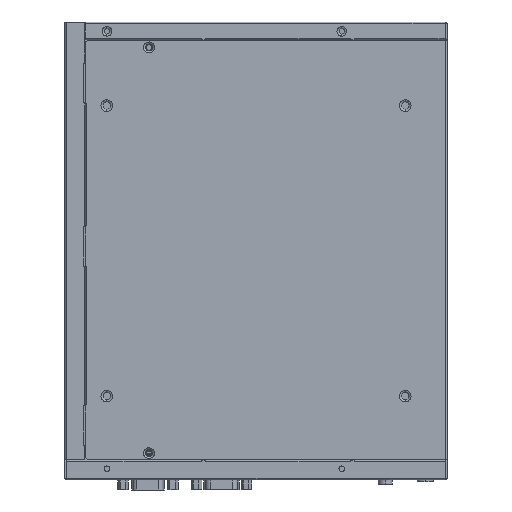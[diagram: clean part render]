
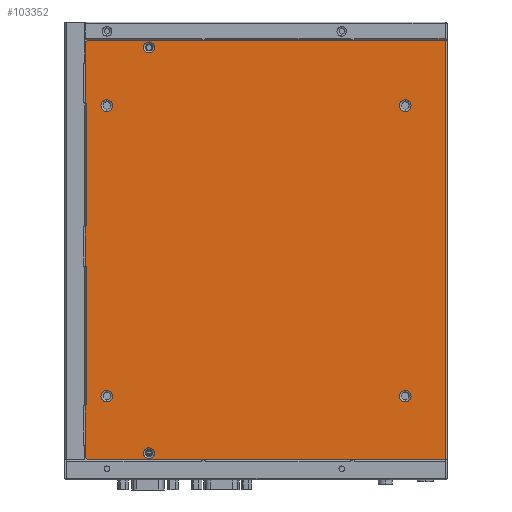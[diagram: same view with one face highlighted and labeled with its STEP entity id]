
A CAD part, front view. The second image highlights one B-rep face of the part: STEP entity #103352.
In plain terms, the highlighted planar face has unit normal (0, -1, 0).
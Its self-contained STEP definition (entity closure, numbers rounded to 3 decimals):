
#98539=CARTESIAN_POINT('',(-179.8,0.,12.));
#98540=DIRECTION('',(0.,-1.,0.));
#98541=DIRECTION('',(-1.,0.,0.));
#98542=AXIS2_PLACEMENT_3D('',#98539,#98540,#98541);
#98547=DIRECTION('',(0.,0.,-1.));
#98548=VECTOR('',#98547,25.6);
#98549=CARTESIAN_POINT('',(-181.8,0.,37.6));
#98550=LINE('',#98549,#98548);
#98554=DIRECTION('',(-1.,0.,0.));
#98555=VECTOR('',#98554,0.8);
#98556=CARTESIAN_POINT('',(-181.,0.,37.6));
#98557=LINE('',#98556,#98555);
#98561=DIRECTION('',(1.,0.,0.));
#98562=VECTOR('',#98561,0.8);
#98563=CARTESIAN_POINT('',(-181.8,0.,107.));
#98564=LINE('',#98563,#98562);
#98568=DIRECTION('',(0.,0.,-1.));
#98569=VECTOR('',#98568,20.6);
#98570=CARTESIAN_POINT('',(-181.8,0.,127.6));
#98571=LINE('',#98570,#98569);
#98575=DIRECTION('',(-1.,0.,0.));
#98576=VECTOR('',#98575,0.8);
#98577=CARTESIAN_POINT('',(-181.,0.,127.6));
#98578=LINE('',#98577,#98576);
#98582=DIRECTION('',(1.,0.,0.));
#98583=VECTOR('',#98582,0.8);
#98584=CARTESIAN_POINT('',(-181.8,0.,189.));
#98585=LINE('',#98584,#98583);
#98589=DIRECTION('',(0.,0.,-1.));
#98590=VECTOR('',#98589,29.8);
#98591=CARTESIAN_POINT('',(-181.8,0.,218.8));
#98592=LINE('',#98591,#98590);
#98596=CARTESIAN_POINT('',(-179.8,0.,218.8));
#98597=DIRECTION('',(0.,-1.,0.));
#98598=DIRECTION('',(0.,0.,1.));
#98599=AXIS2_PLACEMENT_3D('',#98596,#98597,#98598);
#98604=DIRECTION('',(1.,0.,0.));
#98605=VECTOR('',#98604,179.);
#98606=CARTESIAN_POINT('',(-179.8,0.,10.));
#98607=LINE('',#98606,#98605);
#98611=CARTESIAN_POINT('',(-149.8,0.,13.3));
#98612=DIRECTION('',(0.,1.,0.));
#98613=DIRECTION('',(0.,0.,1.));
#98614=AXIS2_PLACEMENT_3D('',#98611,#98612,#98613);
#98619=CARTESIAN_POINT('',(-149.8,0.,13.3));
#98620=DIRECTION('',(0.,1.,0.));
#98621=DIRECTION('',(0.,0.,-1.));
#98622=AXIS2_PLACEMENT_3D('',#98619,#98620,#98621);
#98627=CARTESIAN_POINT('',(-149.7,0.,217.2));
#98628=DIRECTION('',(0.,1.,0.));
#98629=DIRECTION('',(0.,0.,1.));
#98630=AXIS2_PLACEMENT_3D('',#98627,#98628,#98629);
#98635=CARTESIAN_POINT('',(-149.7,0.,217.2));
#98636=DIRECTION('',(0.,1.,0.));
#98637=DIRECTION('',(0.,0.,-1.));
#98638=AXIS2_PLACEMENT_3D('',#98635,#98636,#98637);
#98643=CARTESIAN_POINT('',(-21.,0.,42.));
#98644=DIRECTION('',(0.,1.,0.));
#98645=DIRECTION('',(0.,0.,-1.));
#98646=AXIS2_PLACEMENT_3D('',#98643,#98644,#98645);
#98651=CARTESIAN_POINT('',(-21.,0.,42.));
#98652=DIRECTION('',(0.,1.,0.));
#98653=DIRECTION('',(0.,0.,1.));
#98654=AXIS2_PLACEMENT_3D('',#98651,#98652,#98653);
#98659=CARTESIAN_POINT('',(-171.,0.,42.));
#98660=DIRECTION('',(0.,1.,0.));
#98661=DIRECTION('',(0.,0.,-1.));
#98662=AXIS2_PLACEMENT_3D('',#98659,#98660,#98661);
#98667=CARTESIAN_POINT('',(-171.,0.,42.));
#98668=DIRECTION('',(0.,1.,0.));
#98669=DIRECTION('',(0.,0.,1.));
#98670=AXIS2_PLACEMENT_3D('',#98667,#98668,#98669);
#98675=CARTESIAN_POINT('',(-21.,0.,188.));
#98676=DIRECTION('',(0.,1.,0.));
#98677=DIRECTION('',(0.,0.,-1.));
#98678=AXIS2_PLACEMENT_3D('',#98675,#98676,#98677);
#98683=CARTESIAN_POINT('',(-21.,0.,188.));
#98684=DIRECTION('',(0.,1.,0.));
#98685=DIRECTION('',(0.,0.,1.));
#98686=AXIS2_PLACEMENT_3D('',#98683,#98684,#98685);
#98691=CARTESIAN_POINT('',(-171.,0.,188.));
#98692=DIRECTION('',(0.,1.,0.));
#98693=DIRECTION('',(0.,0.,-1.));
#98694=AXIS2_PLACEMENT_3D('',#98691,#98692,#98693);
#98699=CARTESIAN_POINT('',(-171.,0.,188.));
#98700=DIRECTION('',(0.,1.,0.));
#98701=DIRECTION('',(0.,0.,1.));
#98702=AXIS2_PLACEMENT_3D('',#98699,#98700,#98701);
#98743=DIRECTION('',(0.,0.,1.));
#98744=VECTOR('',#98743,69.4);
#98745=CARTESIAN_POINT('',(-181.,0.,37.6));
#98746=LINE('',#98745,#98744);
#98864=DIRECTION('',(0.,0.,1.));
#98865=VECTOR('',#98864,61.4);
#98866=CARTESIAN_POINT('',(-181.,0.,127.6));
#98867=LINE('',#98866,#98865);
#98977=DIRECTION('',(1.,0.,0.));
#98978=VECTOR('',#98977,179.);
#98979=CARTESIAN_POINT('',(-179.8,0.,220.8));
#98980=LINE('',#98979,#98978);
#99350=DIRECTION('',(0.,0.,-1.));
#99351=VECTOR('',#99350,210.8);
#99352=CARTESIAN_POINT('',(-0.8,0.,220.8));
#99353=LINE('',#99352,#99351);
#99737=CARTESIAN_POINT('',(-171.,0.,44.9));
#99739=VERTEX_POINT('',#99737);
#99749=CARTESIAN_POINT('',(-171.,0.,39.1));
#99750=VERTEX_POINT('',#99749);
#99751=CARTESIAN_POINT('',(-171.,0.,185.1));
#99753=VERTEX_POINT('',#99751);
#99785=CARTESIAN_POINT('',(-0.8,0.,10.));
#99787=VERTEX_POINT('',#99785);
#99801=CARTESIAN_POINT('',(-149.8,0.,10.55));
#99802=CARTESIAN_POINT('',(-149.8,0.,16.05));
#99803=VERTEX_POINT('',#99801);
#99804=VERTEX_POINT('',#99802);
#99853=CARTESIAN_POINT('',(-171.,0.,190.9));
#99854=VERTEX_POINT('',#99853);
#99863=CARTESIAN_POINT('',(-149.7,0.,214.45));
#99865=VERTEX_POINT('',#99863);
#99873=CARTESIAN_POINT('',(-181.8,0.,218.8));
#99874=CARTESIAN_POINT('',(-181.8,0.,189.));
#99875=VERTEX_POINT('',#99873);
#99876=VERTEX_POINT('',#99874);
#99877=CARTESIAN_POINT('',(-179.8,0.,220.8));
#99878=CARTESIAN_POINT('',(-0.8,0.,220.8));
#99879=VERTEX_POINT('',#99877);
#99880=VERTEX_POINT('',#99878);
#99903=CARTESIAN_POINT('',(-179.8,0.,10.));
#99904=VERTEX_POINT('',#99903);
#99905=CARTESIAN_POINT('',(-181.,0.,127.6));
#99906=CARTESIAN_POINT('',(-181.8,0.,127.6));
#99907=VERTEX_POINT('',#99905);
#99908=VERTEX_POINT('',#99906);
#99929=CARTESIAN_POINT('',(-181.8,0.,37.6));
#99930=VERTEX_POINT('',#99929);
#99947=CARTESIAN_POINT('',(-149.7,0.,219.95));
#99948=VERTEX_POINT('',#99947);
#99954=CARTESIAN_POINT('',(-181.,0.,189.));
#99956=VERTEX_POINT('',#99954);
#99969=CARTESIAN_POINT('',(-181.8,0.,107.));
#99971=VERTEX_POINT('',#99969);
#99979=CARTESIAN_POINT('',(-21.,0.,44.9));
#99981=VERTEX_POINT('',#99979);
#100105=CARTESIAN_POINT('',(-181.,0.,107.));
#100106=VERTEX_POINT('',#100105);
#100147=CARTESIAN_POINT('',(-181.8,0.,12.));
#100148=VERTEX_POINT('',#100147);
#100185=CARTESIAN_POINT('',(-21.,0.,39.1));
#100186=VERTEX_POINT('',#100185);
#100221=CARTESIAN_POINT('',(-21.,0.,190.9));
#100223=VERTEX_POINT('',#100221);
#100358=CARTESIAN_POINT('',(-21.,0.,185.1));
#100359=VERTEX_POINT('',#100358);
#100421=CARTESIAN_POINT('',(-181.,0.,37.6));
#100422=VERTEX_POINT('',#100421);
#103282=CARTESIAN_POINT('',(0.,0.,10.));
#103283=DIRECTION('',(0.,1.,0.));
#103284=DIRECTION('',(0.,0.,-1.));
#103285=AXIS2_PLACEMENT_3D('',#103282,#103283,#103284);
#103286=PLANE('',#103285);
#103288=ORIENTED_EDGE('',*,*,#103287,.F.);
#103290=ORIENTED_EDGE('',*,*,#103289,.F.);
#103292=ORIENTED_EDGE('',*,*,#103291,.F.);
#103294=ORIENTED_EDGE('',*,*,#103293,.T.);
#103296=ORIENTED_EDGE('',*,*,#103295,.F.);
#103298=ORIENTED_EDGE('',*,*,#103297,.F.);
#103300=ORIENTED_EDGE('',*,*,#103299,.F.);
#103302=ORIENTED_EDGE('',*,*,#103301,.T.);
#103304=ORIENTED_EDGE('',*,*,#103303,.F.);
#103306=ORIENTED_EDGE('',*,*,#103305,.F.);
#103308=ORIENTED_EDGE('',*,*,#103307,.F.);
#103310=ORIENTED_EDGE('',*,*,#103309,.T.);
#103312=ORIENTED_EDGE('',*,*,#103311,.T.);
#103313=ORIENTED_EDGE('',*,*,#103272,.F.);
#103314=EDGE_LOOP('',(#103288,#103290,#103292,#103294,#103296,#103298,#103300,
#103302,#103304,#103306,#103308,#103310,#103312,#103313));
#103315=FACE_OUTER_BOUND('',#103314,.F.);
#103317=ORIENTED_EDGE('',*,*,#103316,.F.);
#103319=ORIENTED_EDGE('',*,*,#103318,.F.);
#103320=EDGE_LOOP('',(#103317,#103319));
#103321=FACE_BOUND('',#103320,.F.);
#103323=ORIENTED_EDGE('',*,*,#103322,.F.);
#103325=ORIENTED_EDGE('',*,*,#103324,.F.);
#103326=EDGE_LOOP('',(#103323,#103325));
#103327=FACE_BOUND('',#103326,.F.);
#103329=ORIENTED_EDGE('',*,*,#103328,.F.);
#103331=ORIENTED_EDGE('',*,*,#103330,.F.);
#103332=EDGE_LOOP('',(#103329,#103331));
#103333=FACE_BOUND('',#103332,.F.);
#103335=ORIENTED_EDGE('',*,*,#103334,.F.);
#103337=ORIENTED_EDGE('',*,*,#103336,.F.);
#103338=EDGE_LOOP('',(#103335,#103337));
#103339=FACE_BOUND('',#103338,.F.);
#103341=ORIENTED_EDGE('',*,*,#103340,.F.);
#103343=ORIENTED_EDGE('',*,*,#103342,.F.);
#103344=EDGE_LOOP('',(#103341,#103343));
#103345=FACE_BOUND('',#103344,.F.);
#103347=ORIENTED_EDGE('',*,*,#103346,.F.);
#103349=ORIENTED_EDGE('',*,*,#103348,.F.);
#103350=EDGE_LOOP('',(#103347,#103349));
#103351=FACE_BOUND('',#103350,.F.);
#98543=CIRCLE('',#98542,2.);
#98600=CIRCLE('',#98599,2.);
#98615=CIRCLE('',#98614,2.75);
#98623=CIRCLE('',#98622,2.75);
#98631=CIRCLE('',#98630,2.75);
#98639=CIRCLE('',#98638,2.75);
#98647=CIRCLE('',#98646,2.9);
#98655=CIRCLE('',#98654,2.9);
#98663=CIRCLE('',#98662,2.9);
#98671=CIRCLE('',#98670,2.9);
#98679=CIRCLE('',#98678,2.9);
#98687=CIRCLE('',#98686,2.9);
#98695=CIRCLE('',#98694,2.9);
#98703=CIRCLE('',#98702,2.9);
#103272=EDGE_CURVE('',#99904,#99787,#98607,.T.);
#103287=EDGE_CURVE('',#100148,#99904,#98543,.T.);
#103289=EDGE_CURVE('',#99930,#100148,#98550,.T.);
#103291=EDGE_CURVE('',#100422,#99930,#98557,.T.);
#103293=EDGE_CURVE('',#100422,#100106,#98746,.T.);
#103295=EDGE_CURVE('',#99971,#100106,#98564,.T.);
#103297=EDGE_CURVE('',#99908,#99971,#98571,.T.);
#103299=EDGE_CURVE('',#99907,#99908,#98578,.T.);
#103301=EDGE_CURVE('',#99907,#99956,#98867,.T.);
#103303=EDGE_CURVE('',#99876,#99956,#98585,.T.);
#103305=EDGE_CURVE('',#99875,#99876,#98592,.T.);
#103307=EDGE_CURVE('',#99879,#99875,#98600,.T.);
#103309=EDGE_CURVE('',#99879,#99880,#98980,.T.);
#103311=EDGE_CURVE('',#99880,#99787,#99353,.T.);
#103316=EDGE_CURVE('',#99804,#99803,#98615,.T.);
#103318=EDGE_CURVE('',#99803,#99804,#98623,.T.);
#103322=EDGE_CURVE('',#99948,#99865,#98631,.T.);
#103324=EDGE_CURVE('',#99865,#99948,#98639,.T.);
#103328=EDGE_CURVE('',#100186,#99981,#98647,.T.);
#103330=EDGE_CURVE('',#99981,#100186,#98655,.T.);
#103334=EDGE_CURVE('',#99750,#99739,#98663,.T.);
#103336=EDGE_CURVE('',#99739,#99750,#98671,.T.);
#103340=EDGE_CURVE('',#100359,#100223,#98679,.T.);
#103342=EDGE_CURVE('',#100223,#100359,#98687,.T.);
#103346=EDGE_CURVE('',#99753,#99854,#98695,.T.);
#103348=EDGE_CURVE('',#99854,#99753,#98703,.T.);
#103352=ADVANCED_FACE('',(#103315,#103321,#103327,#103333,#103339,#103345,
#103351),#103286,.F.);
